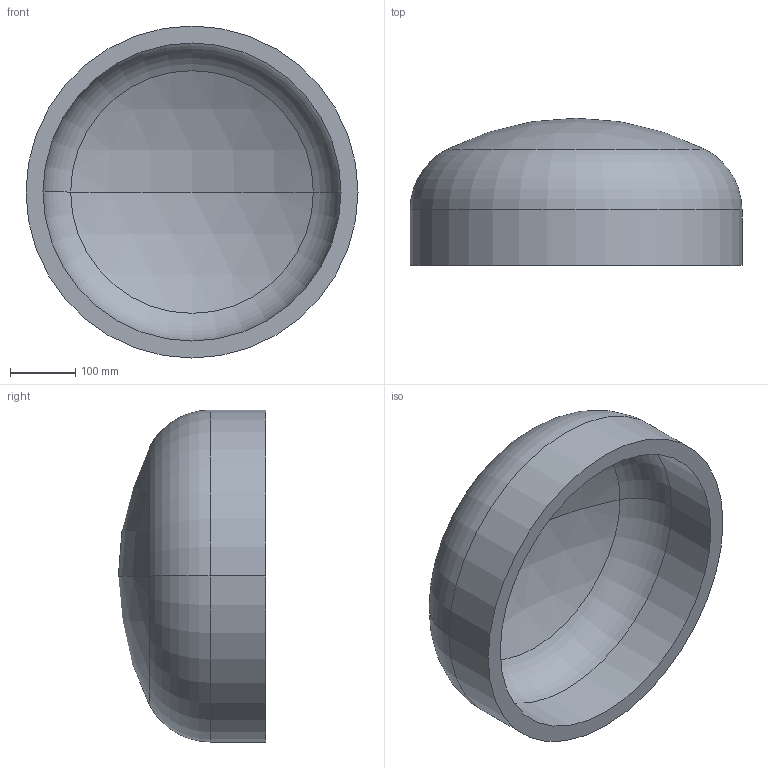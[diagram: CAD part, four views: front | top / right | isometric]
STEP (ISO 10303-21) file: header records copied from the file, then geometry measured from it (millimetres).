
FILE_DESCRIPTION (( 'STEP AP203' ), '1' );
FILE_NAME ('DIN 28013 Korbbogenform_-_Boden DIN 28013 - 508 x 85 - I - s=26.step', '2016-07-01T07:53:31', ( '' ), ( '' ), 'SwSTEP 2.0', 'SolidWorks 2013', '' );
FILE_SCHEMA (( 'CONFIG_CONTROL_DESIGN' ));
Length unit declared in the file: millimetre
Products named in the file (1): DIN 28013 Korbbogenform_-_Boden DIN 28013 - 508 x 85 - I - s=26
Bounding box: 508 x 225.31 x 508 mm (x, y, z)
Volume: 10177101.7 mm3; surface area: 823640.1 mm2
Topology: 1 solids, 1 shells, 13 faces, 24 edges, 14 vertices
Faces by surface type: torus 4, cylinder 4, sphere 4, plane 1
Entity records: 407 total; most frequent: DIRECTION 72, CARTESIAN_POINT 52, ORIENTED_EDGE 48, AXIS2_PLACEMENT_3D 34, EDGE_CURVE 24, CIRCLE 20, VERTEX_POINT 14, EDGE_LOOP 14
